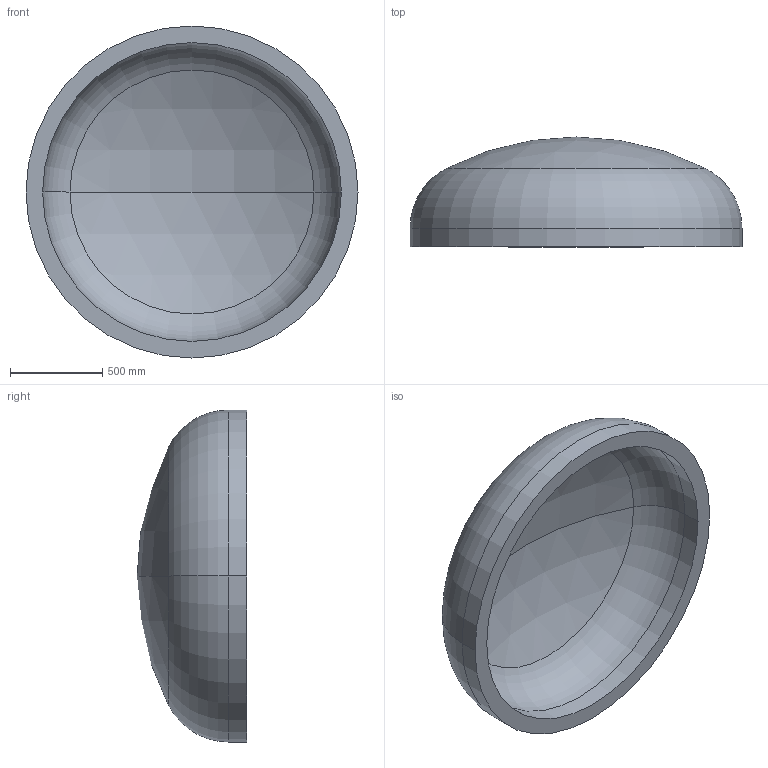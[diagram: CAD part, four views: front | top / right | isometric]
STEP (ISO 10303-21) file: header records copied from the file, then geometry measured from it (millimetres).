
FILE_DESCRIPTION (( 'STEP AP203' ), '1' );
FILE_NAME ('DIN 28013 Korbbogenform_-_Boden DIN 28013 - 1800 x 100 - I - s=90.step', '2016-07-01T12:43:03', ( '' ), ( '' ), 'SwSTEP 2.0', 'SolidWorks 2013', '' );
FILE_SCHEMA (( 'CONFIG_CONTROL_DESIGN' ));
Length unit declared in the file: millimetre
Products named in the file (1): DIN 28013 Korbbogenform_-_Boden DIN 28013 - 1800 x 100 - I - s=90
Bounding box: 1800 x 595.11 x 1800 mm (x, y, z)
Volume: 345318671.9 mm3; surface area: 8174201.9 mm2
Topology: 1 solids, 1 shells, 13 faces, 24 edges, 14 vertices
Faces by surface type: torus 4, cylinder 4, sphere 4, plane 1
Entity records: 407 total; most frequent: DIRECTION 72, CARTESIAN_POINT 52, ORIENTED_EDGE 48, AXIS2_PLACEMENT_3D 34, EDGE_CURVE 24, CIRCLE 20, EDGE_LOOP 14, VERTEX_POINT 14
